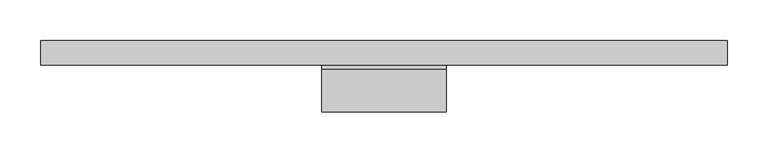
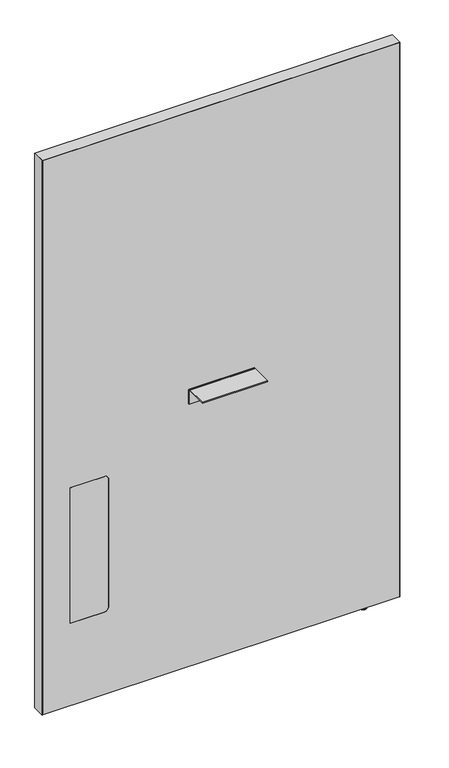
"""IFC4 building model written with IfcOpenShell, lengths in millimetres: furniture geometry, Steelcase - Answer Solution - Boundary Screen - Straight - Single Sided : 54H x 33W."""

from ifc_helpers import new_model, si_unit, point, frame, frame_2d, origin, place, context, project, spatial, polyline, circle_curve, ellipse_curve, trimmed, segment, composite_curve, outline, extrude, source, transform, mapped, element, save
from ifc_brep_helpers import plane_surface, cylinder_surface, revolved_surface, advanced_brep


def furniture_6a3c5437(model_context):
    return source(origin(), model_context, "Body", "SolidModel", [
        extrude(outline(composite_curve([segment(polyline([(-86.8398151, 696.4680019), (-86.8398151, 698.5), (-34.9450855, 698.5)]), True, "CONTINUOUS"), segment(trimmed(circle_curve(frame_2d((-34.9450855, 693.2447477)), 5.2552523), [point((-34.9450855, 698.5))], [point((-29.6898332, 693.2447477))], False, "CARTESIAN"), True, "CONTINUOUS"), segment(polyline([(-29.6898332, 693.2447477), (-29.6898332, 660.4), (-31.7218162, 660.4), (-31.7218162, 693.0058743)]), True, "CONTINUOUS"), segment(trimmed(circle_curve(frame_2d((-35.1839438, 693.0058743)), 3.4621276), [point((-31.7218162, 693.0058743))], [point((-35.1839438, 696.4680019))], True, "CARTESIAN"), True, "CONTINUOUS"), segment(polyline([(-35.1839438, 696.4680019), (-86.8398151, 696.4680019)]), True, "CONTINUOUS")], self_intersect=False)), frame((-303.5808593, 0.0, 0.0), z_axis=(1.0, 0.0, 0.0), x_axis=(0.0, 1.0, 0.0)), (0.0, 0.0, 1.0), 152.4000969),
        advanced_brep(
        [(114.5286488, -23.7588726, 9.9059849), (114.5286488, -5.9309607, 9.9059849), (114.5286488, -14.8449166, 9.9059849), (114.5286488, -23.7588726, 2.9673238), (114.5286488, -5.9309607, 2.9673238), (114.5286488, -22.7915354, 2.9673238), (114.5286488, -6.8982978, 2.9673238), (114.5286488, -22.7915354, 1.6569081), (114.5286488, -6.8982978, 1.6569081), (114.5286488, -21.1346274, 0.0), (114.5286488, -8.5552059, 0.0), (114.5286488, -14.8449166, 0.0)],
        [
            (0, 1, circle_curve(frame((114.5286488, -14.8449166, 9.9059849), z_axis=(0.0, 0.0, 1.0), x_axis=(0.0, 1.0, 0.0)), 8.913956)),
            (1, 2),
            (2, 0),
            (1, 0, circle_curve(frame((114.5286488, -14.8449166, 9.9059849), z_axis=(0.0, 0.0, 1.0), x_axis=(0.0, 1.0, 0.0)), 8.913956)),
            (3, 4, circle_curve(frame((114.5286488, -14.8449166, 2.9673238), z_axis=(0.0, 0.0, 1.0), x_axis=(0.0, 1.0, 0.0)), 8.913956)),
            (4, 1),
            (0, 3),
            (4, 3, circle_curve(frame((114.5286488, -14.8449166, 2.9673238), z_axis=(0.0, 0.0, 1.0), x_axis=(0.0, 1.0, 0.0)), 8.913956)),
            (5, 6, circle_curve(frame((114.5286488, -14.8449166, 2.9673238), z_axis=(0.0, 0.0, 1.0), x_axis=(0.0, 1.0, 0.0)), 7.9466188)),
            (6, 4),
            (3, 5),
            (6, 5, circle_curve(frame((114.5286488, -14.8449166, 2.9673238), z_axis=(0.0, 0.0, 1.0), x_axis=(0.0, 1.0, 0.0)), 7.9466188)),
            (7, 8, circle_curve(frame((114.5286488, -14.8449166, 1.6569081), z_axis=(0.0, 0.0, 1.0), x_axis=(0.0, 1.0, 0.0)), 7.9466188)),
            (8, 6),
            (5, 7),
            (8, 7, circle_curve(frame((114.5286488, -14.8449166, 1.6569081), z_axis=(0.0, 0.0, 1.0), x_axis=(0.0, 1.0, 0.0)), 7.9466188)),
            (9, 10, circle_curve(frame((114.5286488, -14.8449166, 0.0), z_axis=(0.0, 0.0, 1.0), x_axis=(0.0, 1.0, 0.0)), 6.2897107)),
            (10, 8, circle_curve(frame((114.5286488, -8.5552059, 1.6569081), z_axis=(1.0, 0.0, 0.0), x_axis=(0.0, 1.0, 0.0)), 1.6569081)),
            (7, 9, circle_curve(frame((114.5286488, -21.1346274, 1.6569081), z_axis=(1.0, 0.0, 0.0), x_axis=(0.0, -1.0, 0.0)), 1.6569081)),
            (10, 9, circle_curve(frame((114.5286488, -14.8449166, 0.0), z_axis=(0.0, 0.0, 1.0), x_axis=(0.0, 1.0, 0.0)), 6.2897107)),
            (11, 10),
            (9, 11),
        ],
        [
            plane_surface(frame((114.5286488, -14.8449166, 9.9059849), z_axis=(0.0, 0.0, 1.0), x_axis=(0.0, 1.0, 0.0))),
            cylinder_surface(frame((114.5286488, -14.8449166, 9.9059849), z_axis=(0.0, 0.0, -1.0), x_axis=(0.0, 1.0, 0.0)), 8.913956),
            plane_surface(frame((114.5286488, -14.8449166, 2.9673238), z_axis=(0.0, 0.0, -1.0), x_axis=(0.0, 1.0, 0.0))),
            cylinder_surface(frame((114.5286488, -14.8449166, 9.9059849), z_axis=(0.0, 0.0, -1.0), x_axis=(0.0, 1.0, 0.0)), 7.9466188),
            revolved_surface(trimmed(ellipse_curve(frame((114.5286488, -8.5552059, 1.6569081), z_axis=(-1.0, 0.0, 0.0), x_axis=(0.0, 1.0, 0.0)), 1.6569081, 1.6569081), [point((114.5286488, -6.8982978, 1.6569081))], [point((114.5286488, -8.5552059, 0.0))], True, "CARTESIAN"), (114.5286488, -14.8449166, 9.9059849), (0.0, 0.0, -1.0)),
            plane_surface(frame((114.5286488, -14.8449166, 0.0), z_axis=(0.0, 0.0, -1.0), x_axis=(0.0, 1.0, 0.0))),
        ],
        [
            (0, [[1, 2, 3]]),
            (0, [[4, -3, -2]]),
            (1, [[5, 6, -1, 7]]),
            (1, [[8, -7, -4, -6]]),
            (2, [[9, 10, -5, 11]]),
            (2, [[12, -11, -8, -10]]),
            (3, [[13, 14, -9, 15]]),
            (3, [[16, -15, -12, -14]]),
            (4, [[17, 18, -13, 19]]),
            (4, [[20, -19, -16, -18]]),
            (5, [[21, -17, 22]]),
            (5, [[-22, -20, -21]]),
        ],
    ),
        advanced_brep(
        [(190.6780168, 0.0, 1381.542118), (190.6780168, 0.0, 9.9059849), (-645.4902221, 0.0, 9.9059849), (-645.4902221, 0.0, 1381.542118), (190.6780168, -29.6898332, 1381.542118), (-645.4902221, -29.6898332, 1381.542118), (-645.4902221, -29.6898332, 9.9059849), (190.6780168, -29.6898332, 9.9059849), (-501.1463873, -29.6898332, 549.6162029), (-490.9863873, -29.6898332, 539.4562029), (-490.9863873, -29.6898332, 223.9362137), (-501.1463873, -29.6898332, 213.7762137), (-580.800285, -29.6898332, 213.7762137), (-580.800285, -29.6898332, 549.6162029), (-580.800285, -29.0550397, 549.6162029), (-501.1463873, -29.0550397, 549.6162029), (-580.800285, -29.0550397, 213.7762137), (-501.1463873, -29.0550397, 213.7762137), (-490.9863873, -29.0550397, 223.9362137), (-490.9863873, -29.0550397, 539.4562029)],
        [
            (0, 1),
            (1, 2),
            (2, 3),
            (3, 0),
            (4, 5),
            (5, 6),
            (6, 7),
            (7, 4),
            (8, 9, circle_curve(frame((-501.1463873, -29.6898332, 539.4562029), z_axis=(0.0, 1.0, 0.0), x_axis=(0.0, 0.0, 1.0)), 10.16)),
            (9, 10),
            (10, 11, circle_curve(frame((-501.1463873, -29.6898332, 223.9362137), z_axis=(0.0, 1.0, 0.0), x_axis=(0.0, 0.0, 1.0)), 10.16)),
            (11, 12),
            (12, 13),
            (13, 8),
            (0, 4),
            (7, 1),
            (6, 2),
            (5, 3),
            (13, 14),
            (14, 15),
            (15, 8),
            (12, 16),
            (16, 14),
            (11, 17),
            (17, 16),
            (10, 18),
            (18, 17, circle_curve(frame((-501.1463873, -29.0550397, 223.9362137), z_axis=(0.0, 1.0, 0.0), x_axis=(0.0, 0.0, 1.0)), 10.16)),
            (9, 19),
            (19, 18),
            (15, 19, circle_curve(frame((-501.1463873, -29.0550397, 539.4562029), z_axis=(0.0, 1.0, 0.0), x_axis=(0.0, 0.0, 1.0)), 10.16)),
        ],
        [
            plane_surface(frame((190.6780168, 0.0, 1381.542118), z_axis=(0.0, 1.0, 0.0), x_axis=(0.0, 0.0, -1.0))),
            plane_surface(frame((190.6780168, -29.6898332, 1381.542118), z_axis=(0.0, -1.0, 0.0), x_axis=(0.0, 0.0, 1.0))),
            plane_surface(frame((190.6780168, 0.0, 1381.542118), z_axis=(1.0, 0.0, 0.0), x_axis=(0.0, -1.0, 0.0))),
            plane_surface(frame((190.6780168, 0.0, 9.9059849), z_axis=(0.0, 0.0, -1.0), x_axis=(0.0, -1.0, 0.0))),
            plane_surface(frame((-645.4902221, 0.0, 9.9059849), z_axis=(-1.0, 0.0, 0.0), x_axis=(0.0, -1.0, 0.0))),
            plane_surface(frame((-645.4902221, 0.0, 1381.542118), z_axis=(0.0, 0.0, 1.0), x_axis=(0.0, -1.0, 0.0))),
            plane_surface(frame((-501.1463873, 0.0, 549.6162029), z_axis=(0.0, 0.0, -1.0), x_axis=(0.0, -1.0, 0.0))),
            plane_surface(frame((-580.800285, 0.0, 549.6162029), z_axis=(1.0, 0.0, 0.0), x_axis=(0.0, -1.0, 0.0))),
            plane_surface(frame((-580.800285, 0.0, 213.7762137), z_axis=(0.0, 0.0, 1.0), x_axis=(0.0, -1.0, 0.0))),
            revolved_surface(polyline([(-501.1463873, -29.6898332, 234.0962137), (-501.1463873, -29.0550397, 234.0962137)]), (-501.1463873, -29.6898332, 223.9362137), (0.0, -1.0, 0.0)),
            plane_surface(frame((-490.9863873, 0.0, 223.9362137), z_axis=(-1.0, 0.0, 0.0), x_axis=(0.0, -1.0, 0.0))),
            revolved_surface(polyline([(-501.1463873, -29.6898332, 549.6162029), (-501.1463873, -29.0550397, 549.6162029)]), (-501.1463873, -29.6898332, 539.4562029), (0.0, -1.0, 0.0)),
            plane_surface(frame((-490.9863873, -29.0550397, 629.172953), z_axis=(0.0, -1.0, 0.0), x_axis=(0.0, 0.0, 1.0))),
        ],
        [
            (0, [[1, 2, 3, 4]]),
            (1, [[5, 6, 7, 8], [9, 10, 11, 12, 13, 14]]),
            (2, [[-1, 15, -8, 16]]),
            (3, [[-2, -16, -7, 17]]),
            (4, [[-3, -17, -6, 18]]),
            (5, [[-4, -18, -5, -15]]),
            (6, [[-14, 19, 20, 21]]),
            (7, [[-13, 22, 23, -19]]),
            (8, [[-12, 24, 25, -22]]),
            (9, [[-11, 26, 27, -24]]),
            (10, [[-10, 28, 29, -26]]),
            (11, [[-9, -21, 30, -28]]),
            (12, [[-20, -23, -25, -27, -29, -30]]),
        ],
    ),
        extrude(outline(composite_curve([segment(polyline([(549.6162029, -501.1463873), (549.6162029, -580.800285), (213.7762137, -580.800285), (213.7762137, -501.1463873)]), True, "CONTINUOUS"), segment(trimmed(circle_curve(frame_2d((223.9362137, -501.1463873)), 10.16), [point((213.7762137, -501.1463873))], [point((223.9362137, -490.9863873))], False, "CARTESIAN"), True, "CONTINUOUS"), segment(polyline([(223.9362137, -490.9863873), (539.4562029, -490.9863873)]), True, "CONTINUOUS"), segment(trimmed(circle_curve(frame_2d((539.4562029, -501.1463873)), 10.16), [point((539.4562029, -490.9863873))], [point((549.6162029, -501.1463873))], False, "CARTESIAN"), True, "CONTINUOUS")], self_intersect=False)), frame((0.0, -29.6898332, 0.0), z_axis=(0.0, 1.0, 0.0), x_axis=(0.0, 0.0, 1.0)), (0.0, 0.0, 1.0), 0.6347935),
        extrude(outline(polyline([(1382.522, 191.7191891), (1382.522, -646.4808109), (9.9059849, -646.4808109), (9.9059849, -645.4902221), (1381.542118, -645.4902221), (1381.542118, 190.6780168), (9.9059849, 190.6780168), (9.9059849, 191.7191891), (1382.522, 191.7191891)])), frame((0.0, -29.6898332, 0.0), z_axis=(0.0, 1.0, 0.0), x_axis=(0.0, 0.0, 1.0)), (0.0, 0.0, 1.0), 29.6898332),
    ])


if __name__ == "__main__":
    model = new_model("IFC4")
    model_context = context("Model", 3, world=origin())
    ifc_project = project(units=[si_unit("LENGTHUNIT", "METRE", prefix="MILLI")], contexts=[model_context])
    site = spatial("IfcSite", under=ifc_project)
    building = spatial("IfcBuilding", under=site)
    placement = place(None, origin())
    furniture_shape = furniture_6a3c5437(model_context)
    element("IfcFurniture", 1, ObjectType="Steelcase - Answer Solution - Boundary Screen - Straight - Single Sided : 54H x 33W", at=placement, inside=building, context=model_context, shape_type="MappedRepresentation", body=[
        mapped(furniture_shape, transform((0.0, 0.0, 0.0), x_axis=(1.0, 0.0, 0.0), y_axis=(0.0, 1.0, 0.0), z_axis=(0.0, 0.0, 1.0))),
    ])
    save(model, "model.ifc")
